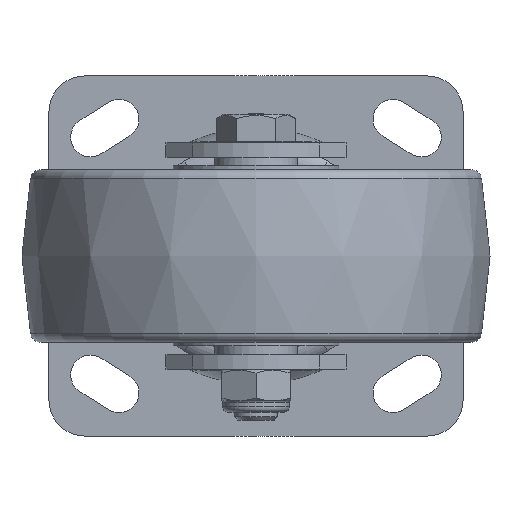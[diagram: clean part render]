
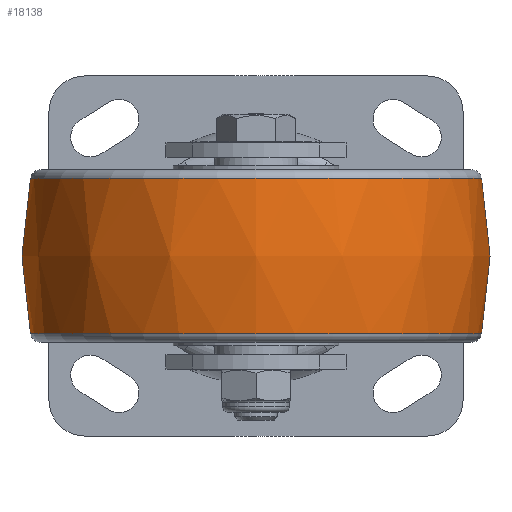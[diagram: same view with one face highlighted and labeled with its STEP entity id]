
A CAD part, front view. The second image highlights one B-rep face of the part: STEP entity #18138.
In plain terms, the highlighted free-form (B-spline) face has degree [2, 2] with [3, 9] control points.
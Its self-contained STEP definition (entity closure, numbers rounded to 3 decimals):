
#1422=(
BOUNDED_SURFACE()
B_SPLINE_SURFACE(2,2,((#23285,#23286,#23287,#23288,#23289,#23290,#23291,
#23292,#23293),(#23294,#23295,#23296,#23297,#23298,#23299,#23300,#23301,
#23302),(#23303,#23304,#23305,#23306,#23307,#23308,#23309,#23310,#23311)),
 .UNSPECIFIED.,.F.,.T.,.F.)
B_SPLINE_SURFACE_WITH_KNOTS((3,3),(3,2,2,2,3),(-0.217,0.217),
(-3.142,-1.571,0.,1.571,3.142),
 .UNSPECIFIED.)
GEOMETRIC_REPRESENTATION_ITEM()
RATIONAL_B_SPLINE_SURFACE(((1.,0.707,1.,0.707,1.,
0.707,1.,0.707,1.),(0.977,0.691,
0.977,0.691,0.977,0.691,0.977,
0.691,0.977),(1.,0.707,1.,0.707,
1.,0.707,1.,0.707,1.)))
REPRESENTATION_ITEM('')
SURFACE()
);
#2095=FACE_OUTER_BOUND('',#3135,.T.);
#3135=EDGE_LOOP('',(#12511,#12512,#12513,#12514,#12515,#12516));
#7576=CIRCLE('',#19212,62.641);
#7579=CIRCLE('',#19215,62.641);
#7580=CIRCLE('',#19216,100.5);
#7581=CIRCLE('',#19217,62.641);
#7582=CIRCLE('',#19218,62.641);
#7802=VERTEX_POINT('',#23278);
#7803=VERTEX_POINT('',#23279);
#7805=VERTEX_POINT('',#23312);
#7806=VERTEX_POINT('',#23314);
#9677=EDGE_CURVE('',#7802,#7803,#7576,.T.);
#9680=EDGE_CURVE('',#7803,#7802,#7579,.T.);
#9681=EDGE_CURVE('',#7802,#7805,#7580,.T.);
#9682=EDGE_CURVE('',#7806,#7805,#7581,.T.);
#9683=EDGE_CURVE('',#7805,#7806,#7582,.T.);
#12511=ORIENTED_EDGE('',*,*,#9677,.F.);
#12512=ORIENTED_EDGE('',*,*,#9681,.T.);
#12513=ORIENTED_EDGE('',*,*,#9682,.F.);
#12514=ORIENTED_EDGE('',*,*,#9683,.F.);
#12515=ORIENTED_EDGE('',*,*,#9681,.F.);
#12516=ORIENTED_EDGE('',*,*,#9680,.F.);
#18138=ADVANCED_FACE('',(#2095),#1422,.F.);
#19212=AXIS2_PLACEMENT_3D('',#23280,#20043,#20044);
#19215=AXIS2_PLACEMENT_3D('',#23284,#20049,#20050);
#19216=AXIS2_PLACEMENT_3D('',#23313,#20051,#20052);
#19217=AXIS2_PLACEMENT_3D('',#23315,#20053,#20054);
#19218=AXIS2_PLACEMENT_3D('',#23316,#20055,#20056);
#20043=DIRECTION('center_axis',(0.,0.,
1.));
#20044=DIRECTION('ref_axis',(0.,-1.,0.));
#20049=DIRECTION('center_axis',(0.,0.,
1.));
#20050=DIRECTION('ref_axis',(0.,-1.,0.));
#20051=DIRECTION('center_axis',(-1.,0.,0.));
#20052=DIRECTION('ref_axis',(0.,1.,0.));
#20053=DIRECTION('center_axis',(0.,0.,
-1.));
#20054=DIRECTION('ref_axis',(0.,-1.,0.));
#20055=DIRECTION('center_axis',(0.,0.,
-1.));
#20056=DIRECTION('ref_axis',(0.,-1.,0.));
#23278=CARTESIAN_POINT('',(0.,-43.359,21.646));
#23279=CARTESIAN_POINT('',(0.,-168.641,21.646));
#23280=CARTESIAN_POINT('Origin',(0.,-106.,21.646));
#23284=CARTESIAN_POINT('Origin',(0.,-106.,21.646));
#23285=CARTESIAN_POINT('Ctrl Pts',(0.,-43.359,
-21.646));
#23286=CARTESIAN_POINT('Ctrl Pts',(-62.641,-43.359,
-21.646));
#23287=CARTESIAN_POINT('Ctrl Pts',(-62.641,-106.,-21.646));
#23288=CARTESIAN_POINT('Ctrl Pts',(-62.641,-168.641,
-21.646));
#23289=CARTESIAN_POINT('Ctrl Pts',(0.,-168.641,
-21.646));
#23290=CARTESIAN_POINT('Ctrl Pts',(62.641,-168.641,-21.646));
#23291=CARTESIAN_POINT('Ctrl Pts',(62.641,-106.,-21.646));
#23292=CARTESIAN_POINT('Ctrl Pts',(62.641,-43.359,-21.646));
#23293=CARTESIAN_POINT('Ctrl Pts',(0.,-43.359,
-21.646));
#23294=CARTESIAN_POINT('Ctrl Pts',(0.,-38.585,
0.));
#23295=CARTESIAN_POINT('Ctrl Pts',(-67.415,-38.585,
0.));
#23296=CARTESIAN_POINT('Ctrl Pts',(-67.415,-106.,0.));
#23297=CARTESIAN_POINT('Ctrl Pts',(-67.415,-173.415,
0.));
#23298=CARTESIAN_POINT('Ctrl Pts',(0.,-173.415,
0.));
#23299=CARTESIAN_POINT('Ctrl Pts',(67.415,-173.415,0.));
#23300=CARTESIAN_POINT('Ctrl Pts',(67.415,-106.,0.));
#23301=CARTESIAN_POINT('Ctrl Pts',(67.415,-38.585,0.));
#23302=CARTESIAN_POINT('Ctrl Pts',(0.,-38.585,
0.));
#23303=CARTESIAN_POINT('Ctrl Pts',(0.,-43.359,
21.646));
#23304=CARTESIAN_POINT('Ctrl Pts',(-62.641,-43.359,
21.646));
#23305=CARTESIAN_POINT('Ctrl Pts',(-62.641,-106.,21.646));
#23306=CARTESIAN_POINT('Ctrl Pts',(-62.641,-168.641,
21.646));
#23307=CARTESIAN_POINT('Ctrl Pts',(0.,-168.641,
21.646));
#23308=CARTESIAN_POINT('Ctrl Pts',(62.641,-168.641,21.646));
#23309=CARTESIAN_POINT('Ctrl Pts',(62.641,-106.,21.646));
#23310=CARTESIAN_POINT('Ctrl Pts',(62.641,-43.359,21.646));
#23311=CARTESIAN_POINT('Ctrl Pts',(0.,-43.359,
21.646));
#23312=CARTESIAN_POINT('',(0.,-43.359,-21.646));
#23313=CARTESIAN_POINT('Origin',(0.,-141.5,0.));
#23314=CARTESIAN_POINT('',(0.,-168.641,-21.646));
#23315=CARTESIAN_POINT('Origin',(0.,-106.,-21.646));
#23316=CARTESIAN_POINT('Origin',(0.,-106.,-21.646));
